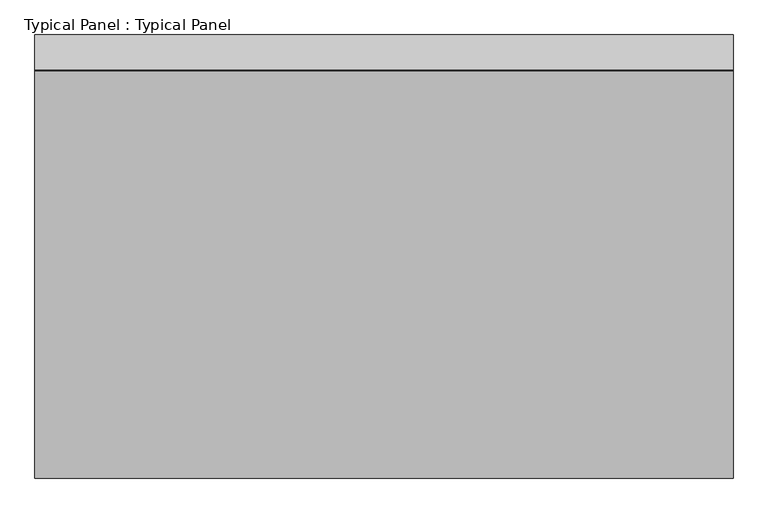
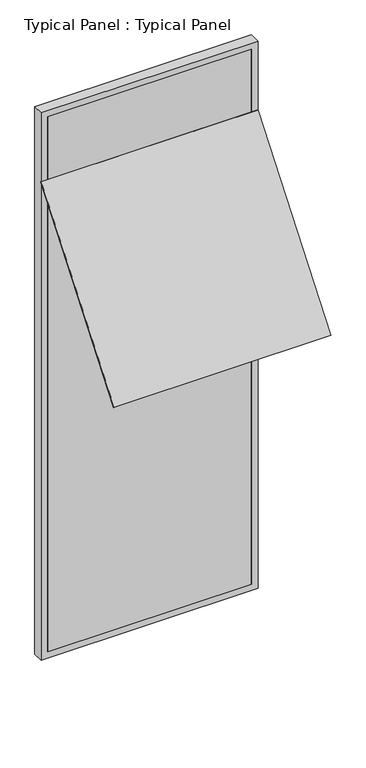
"""IFC4 building model written with IfcOpenShell, lengths in millimetres: plate geometry, Typical Panel : Typical Panel."""

from ifc_helpers import new_model, si_unit, frame, origin, place, context, project, spatial, polyline, outline, extrude, source, transform, mapped, element, save


def typical_panel_typical_panel_24d31985(model_context):
    return source(origin(), model_context, "Body", "SweptSolid", [
        extrude(outline(polyline([(0.0, -10.0000001), (0.0, 0.0), (1500.0, 0.0), (1500.0, -10.0000001), (0.0, -10.0000001)])), frame((750.0, -879.239295, 2381.0247299), z_axis=(0.0, 0.6156614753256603, 0.7880107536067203), x_axis=(-1.0, 0.0, 0.0)), (0.0, 0.0, 1.0), 1420.0),
        extrude(outline(polyline([(0.0, -750.0), (0.0, 750.0), (4000.0, 750.0), (4000.0, -750.0), (0.0, -750.0)]), holes=[polyline([(45.0, 705.0), (45.0, -705.0), (3955.0, -705.0), (3955.0, 705.0), (45.0, 705.0)])]), frame((0.0, -1.5797986, 0.0), z_axis=(0.0, 1.0, 0.0), x_axis=(0.0, 0.0, 1.0)), (0.0, 0.0, 1.0), 75.0),
        extrude(outline(polyline([(705.0, -1.5797986), (-705.0, -1.5797986), (-705.0, 13.4202014), (705.0, 13.4202014), (705.0, -1.5797986)])), frame((0.0, 0.0, 45.0), z_axis=(0.0, 0.0, 1.0), x_axis=(1.0, 0.0, 0.0)), (0.0, 0.0, 1.0), 3910.0),
    ])


if __name__ == "__main__":
    model = new_model("IFC4")
    model_context = context("Model", 3, world=origin())
    ifc_project = project(units=[si_unit("LENGTHUNIT", "METRE", prefix="MILLI")], contexts=[model_context])
    site = spatial("IfcSite", under=ifc_project)
    building = spatial("IfcBuilding", under=site)
    placement = place(None, origin())
    typical_panel_typical_panel_shape = typical_panel_typical_panel_24d31985(model_context)
    element("IfcPlate", 1, ObjectType="Typical Panel : Typical Panel", at=placement, inside=building, context=model_context, shape_type="MappedRepresentation", body=[
        mapped(typical_panel_typical_panel_shape, transform((0.0, 0.0, 0.0), x_axis=(1.0, 0.0, 0.0), y_axis=(0.0, 1.0, 0.0), z_axis=(0.0, 0.0, 1.0))),
    ])
    save(model, "model.ifc")
